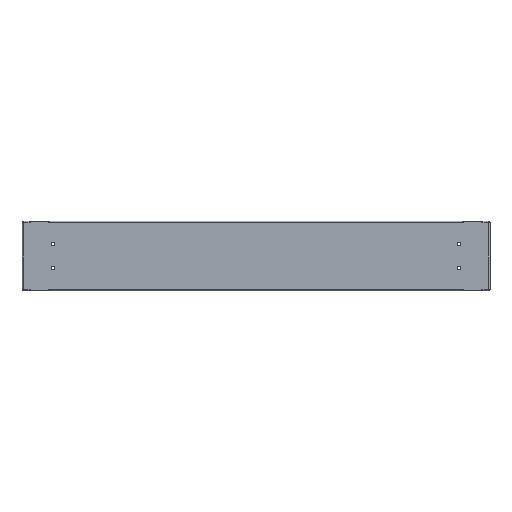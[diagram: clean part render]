
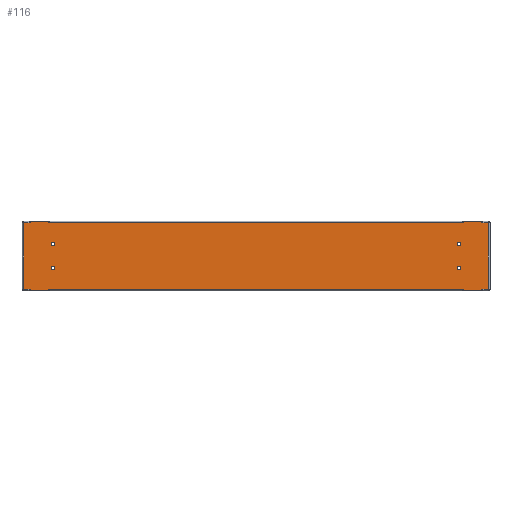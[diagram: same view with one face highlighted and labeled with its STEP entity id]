
A CAD part, top view. The second image highlights one B-rep face of the part: STEP entity #116.
In plain terms, the highlighted planar face has unit normal (0, 0, 1).
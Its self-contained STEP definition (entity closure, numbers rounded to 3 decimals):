
#116=ADVANCED_FACE('',(#582,#584,#586,#588,#590),#592,.F.);
#582=FACE_BOUND('',#583,.T.);
#583=EDGE_LOOP('',(#1966,#1967,#1968,#1969,#1970,#1971,#1972,#1973,#1974,#1975,#1976,
#1977,#1978,#1979,#1980,#1981,#1982,#1983,#1984,#1985,#1986,#1987,#1988,#1989,#1990,
#1991,#1992,#1993));
#584=FACE_BOUND('',#585,.T.);
#585=EDGE_LOOP('',(#1994));
#586=FACE_BOUND('',#587,.T.);
#587=EDGE_LOOP('',(#1995));
#588=FACE_BOUND('',#589,.T.);
#589=EDGE_LOOP('',(#1996));
#590=FACE_BOUND('',#591,.T.);
#591=EDGE_LOOP('',(#1997));
#592=PLANE('',#593);
#593=AXIS2_PLACEMENT_3D('',#594,#595,#596);
#594=CARTESIAN_POINT('',(0.,0.,0.));
#595=DIRECTION('',(0.,0.,-1.));
#596=DIRECTION('',(-1.,0.,0.));
#1966=ORIENTED_EDGE('',*,*,#2666,.T.);
#1967=ORIENTED_EDGE('',*,*,#2565,.T.);
#1968=ORIENTED_EDGE('',*,*,#2549,.T.);
#1969=ORIENTED_EDGE('',*,*,#2667,.F.);
#1970=ORIENTED_EDGE('',*,*,#2668,.F.);
#1971=ORIENTED_EDGE('',*,*,#2669,.F.);
#1972=ORIENTED_EDGE('',*,*,#2551,.T.);
#1973=ORIENTED_EDGE('',*,*,#2557,.T.);
#1974=ORIENTED_EDGE('',*,*,#2541,.T.);
#1975=ORIENTED_EDGE('',*,*,#2670,.F.);
#1976=ORIENTED_EDGE('',*,*,#2671,.F.);
#1977=ORIENTED_EDGE('',*,*,#2672,.F.);
#1978=ORIENTED_EDGE('',*,*,#2543,.T.);
#1979=ORIENTED_EDGE('',*,*,#2559,.T.);
#1980=ORIENTED_EDGE('',*,*,#2673,.T.);
#1981=ORIENTED_EDGE('',*,*,#2674,.T.);
#1982=ORIENTED_EDGE('',*,*,#2675,.F.);
#1983=ORIENTED_EDGE('',*,*,#2676,.T.);
#1984=ORIENTED_EDGE('',*,*,#2677,.T.);
#1985=ORIENTED_EDGE('',*,*,#2678,.T.);
#1986=ORIENTED_EDGE('',*,*,#2610,.F.);
#1987=ORIENTED_EDGE('',*,*,#2618,.T.);
#1988=ORIENTED_EDGE('',*,*,#2679,.F.);
#1989=ORIENTED_EDGE('',*,*,#2680,.T.);
#1990=ORIENTED_EDGE('',*,*,#2681,.T.);
#1991=ORIENTED_EDGE('',*,*,#2682,.T.);
#1992=ORIENTED_EDGE('',*,*,#2614,.F.);
#1993=ORIENTED_EDGE('',*,*,#2622,.T.);
#1994=ORIENTED_EDGE('',*,*,#2521,.T.);
#1995=ORIENTED_EDGE('',*,*,#2523,.T.);
#1996=ORIENTED_EDGE('',*,*,#2535,.F.);
#1997=ORIENTED_EDGE('',*,*,#2537,.F.);
#2521=EDGE_CURVE('',#2895,#2895,#2896,.T.);
#2523=EDGE_CURVE('',#2899,#2899,#2900,.T.);
#2535=EDGE_CURVE('',#2923,#2923,#2924,.T.);
#2537=EDGE_CURVE('',#2927,#2927,#2928,.T.);
#2541=EDGE_CURVE('',#2936,#2934,#2937,.T.);
#2543=EDGE_CURVE('',#2939,#2940,#2941,.T.);
#2549=EDGE_CURVE('',#2952,#2950,#2953,.T.);
#2551=EDGE_CURVE('',#2955,#2956,#2957,.T.);
#2557=EDGE_CURVE('',#2956,#2936,#2967,.T.);
#2559=EDGE_CURVE('',#2940,#2969,#2970,.T.);
#2565=EDGE_CURVE('',#2980,#2952,#2981,.T.);
#2610=EDGE_CURVE('',#3052,#3048,#3054,.T.);
#2614=EDGE_CURVE('',#3060,#3056,#3062,.T.);
#2618=EDGE_CURVE('',#3052,#3067,#3069,.T.);
#2622=EDGE_CURVE('',#3060,#3074,#3076,.T.);
#2666=EDGE_CURVE('',#3074,#2980,#3148,.T.);
#2667=EDGE_CURVE('',#3149,#2950,#3150,.T.);
#2668=EDGE_CURVE('',#3151,#3149,#3152,.T.);
#2669=EDGE_CURVE('',#2955,#3151,#3153,.T.);
#2670=EDGE_CURVE('',#3154,#2934,#3155,.T.);
#2671=EDGE_CURVE('',#3156,#3154,#3157,.T.);
#2672=EDGE_CURVE('',#2939,#3156,#3158,.T.);
#2673=EDGE_CURVE('',#2969,#3159,#3160,.T.);
#2674=EDGE_CURVE('',#3159,#3161,#3162,.T.);
#2675=EDGE_CURVE('',#3163,#3161,#3164,.T.);
#2676=EDGE_CURVE('',#3163,#3165,#3166,.T.);
#2677=EDGE_CURVE('',#3165,#3167,#3168,.T.);
#2678=EDGE_CURVE('',#3167,#3048,#3169,.T.);
#2679=EDGE_CURVE('',#3170,#3067,#3171,.T.);
#2680=EDGE_CURVE('',#3170,#3172,#3173,.T.);
#2681=EDGE_CURVE('',#3172,#3174,#3175,.T.);
#2682=EDGE_CURVE('',#3174,#3056,#3176,.T.);
#2895=VERTEX_POINT('',#3507);
#2896=CIRCLE('',#3508,3.65);
#2899=VERTEX_POINT('',#3517);
#2900=CIRCLE('',#3518,3.65);
#2923=VERTEX_POINT('',#3577);
#2924=CIRCLE('',#3578,3.65);
#2927=VERTEX_POINT('',#3587);
#2928=CIRCLE('',#3588,3.65);
#2934=VERTEX_POINT('',#3602);
#2936=VERTEX_POINT('',#3606);
#2937=LINE('',#3607,#3608);
#2939=VERTEX_POINT('',#3613);
#2940=VERTEX_POINT('',#3614);
#2941=LINE('',#3615,#3616);
#2950=VERTEX_POINT('',#3634);
#2952=VERTEX_POINT('',#3638);
#2953=LINE('',#3639,#3640);
#2955=VERTEX_POINT('',#3645);
#2956=VERTEX_POINT('',#3646);
#2957=LINE('',#3647,#3648);
#2967=LINE('',#3670,#3671);
#2969=VERTEX_POINT('',#3677);
#2970=LINE('',#3678,#3679);
#2980=VERTEX_POINT('',#3716);
#2981=LINE('',#3717,#3718);
#3048=VERTEX_POINT('',#3912);
#3052=VERTEX_POINT('',#3920);
#3054=LINE('',#3924,#3925);
#3056=VERTEX_POINT('',#3928);
#3060=VERTEX_POINT('',#3936);
#3062=LINE('',#3940,#3941);
#3067=VERTEX_POINT('',#3952);
#3069=LINE('',#3957,#3958);
#3074=VERTEX_POINT('',#3969);
#3076=LINE('',#3987,#3988);
#3148=LINE('',#4163,#4164);
#3149=VERTEX_POINT('',#4166);
#3150=LINE('',#4167,#4168);
#3151=VERTEX_POINT('',#4170);
#3152=LINE('',#4171,#4172);
#3153=LINE('',#4174,#4175);
#3154=VERTEX_POINT('',#4177);
#3155=LINE('',#4178,#4179);
#3156=VERTEX_POINT('',#4181);
#3157=LINE('',#4182,#4183);
#3158=LINE('',#4185,#4186);
#3159=VERTEX_POINT('',#4188);
#3160=LINE('',#4189,#4190);
#3161=VERTEX_POINT('',#4192);
#3162=LINE('',#4193,#4194);
#3163=VERTEX_POINT('',#4196);
#3164=LINE('',#4197,#4198);
#3165=VERTEX_POINT('',#4200);
#3166=LINE('',#4201,#4202);
#3167=VERTEX_POINT('',#4204);
#3168=LINE('',#4205,#4206);
#3169=LINE('',#4208,#4209);
#3170=VERTEX_POINT('',#4211);
#3171=LINE('',#4212,#4213);
#3172=VERTEX_POINT('',#4215);
#3173=LINE('',#4216,#4217);
#3174=VERTEX_POINT('',#4219);
#3175=LINE('',#4220,#4221);
#3176=LINE('',#4223,#4224);
#3507=CARTESIAN_POINT('',(-424.35,-25.,0.));
#3508=AXIS2_PLACEMENT_3D('',#3509,#3510,#3511);
#3509=CARTESIAN_POINT('',(-428.,-25.,0.));
#3510=DIRECTION('',(0.,0.,-1.));
#3511=DIRECTION('',(1.,0.,0.));
#3517=CARTESIAN_POINT('',(431.65,-25.,0.));
#3518=AXIS2_PLACEMENT_3D('',#3519,#3520,#3521);
#3519=CARTESIAN_POINT('',(428.,-25.,0.));
#3520=DIRECTION('',(0.,0.,-1.));
#3521=DIRECTION('',(1.,0.,0.));
#3577=CARTESIAN_POINT('',(-424.35,25.,0.));
#3578=AXIS2_PLACEMENT_3D('',#3579,#3580,#3581);
#3579=CARTESIAN_POINT('',(-428.,25.,0.));
#3580=DIRECTION('',(0.,0.,1.));
#3581=DIRECTION('',(-1.,0.,0.));
#3587=CARTESIAN_POINT('',(431.65,25.,0.));
#3588=AXIS2_PLACEMENT_3D('',#3589,#3590,#3591);
#3589=CARTESIAN_POINT('',(428.,25.,0.));
#3590=DIRECTION('',(0.,0.,1.));
#3591=DIRECTION('',(-1.,0.,0.));
#3602=CARTESIAN_POINT('',(438.2,-70.3,0.));
#3606=CARTESIAN_POINT('',(436.2,-70.3,0.));
#3607=CARTESIAN_POINT('',(436.2,-70.3,0.));
#3608=VECTOR('',#3609,1.);
#3609=DIRECTION('',(1.,0.,0.));
#3613=CARTESIAN_POINT('',(476.2,-70.3,0.));
#3614=CARTESIAN_POINT('',(478.2,-70.3,0.));
#3615=CARTESIAN_POINT('',(476.2,-70.3,0.));
#3616=VECTOR('',#3617,1.);
#3617=DIRECTION('',(1.,0.,0.));
#3634=CARTESIAN_POINT('',(-476.2,-70.3,0.));
#3638=CARTESIAN_POINT('',(-478.2,-70.3,0.));
#3639=CARTESIAN_POINT('',(-478.2,-70.3,0.));
#3640=VECTOR('',#3641,1.);
#3641=DIRECTION('',(1.,0.,0.));
#3645=CARTESIAN_POINT('',(-438.2,-70.3,0.));
#3646=CARTESIAN_POINT('',(-436.2,-70.3,0.));
#3647=CARTESIAN_POINT('',(-438.2,-70.3,0.));
#3648=VECTOR('',#3649,1.);
#3649=DIRECTION('',(1.,0.,0.));
#3670=CARTESIAN_POINT('',(-436.2,-70.3,0.));
#3671=VECTOR('',#3672,1.);
#3672=DIRECTION('',(1.,0.,0.));
#3677=CARTESIAN_POINT('',(490.,-70.3,0.));
#3678=CARTESIAN_POINT('',(478.2,-70.3,0.));
#3679=VECTOR('',#3680,1.);
#3680=DIRECTION('',(1.,0.,0.));
#3716=CARTESIAN_POINT('',(-490.,-70.3,0.));
#3717=CARTESIAN_POINT('',(-490.,-70.3,0.));
#3718=VECTOR('',#3719,1.);
#3719=DIRECTION('',(1.,0.,0.));
#3912=CARTESIAN_POINT('',(438.2,70.3,0.));
#3920=CARTESIAN_POINT('',(436.2,70.3,0.));
#3924=CARTESIAN_POINT('',(436.2,70.3,0.));
#3925=VECTOR('',#3926,1.);
#3926=DIRECTION('',(1.,0.,0.));
#3928=CARTESIAN_POINT('',(-476.2,70.3,0.));
#3936=CARTESIAN_POINT('',(-478.2,70.3,0.));
#3940=CARTESIAN_POINT('',(-478.2,70.3,0.));
#3941=VECTOR('',#3942,1.);
#3942=DIRECTION('',(1.,0.,0.));
#3952=CARTESIAN_POINT('',(-436.2,70.3,0.));
#3957=CARTESIAN_POINT('',(436.2,70.3,0.));
#3958=VECTOR('',#3959,1.);
#3959=DIRECTION('',(-1.,0.,0.));
#3969=CARTESIAN_POINT('',(-490.,70.3,0.));
#3987=CARTESIAN_POINT('',(-478.2,70.3,0.));
#3988=VECTOR('',#3989,1.);
#3989=DIRECTION('',(-1.,0.,0.));
#4163=CARTESIAN_POINT('',(-490.,70.3,0.));
#4164=VECTOR('',#4165,1.);
#4165=DIRECTION('',(0.,-1.,0.));
#4166=CARTESIAN_POINT('',(-476.2,-73.5,0.));
#4167=CARTESIAN_POINT('',(-476.2,-73.5,0.));
#4168=VECTOR('',#4169,1.);
#4169=DIRECTION('',(0.,1.,0.));
#4170=CARTESIAN_POINT('',(-438.2,-73.5,0.));
#4171=CARTESIAN_POINT('',(-438.2,-73.5,0.));
#4172=VECTOR('',#4173,1.);
#4173=DIRECTION('',(-1.,0.,0.));
#4174=CARTESIAN_POINT('',(-438.2,-70.3,0.));
#4175=VECTOR('',#4176,1.);
#4176=DIRECTION('',(0.,-1.,0.));
#4177=CARTESIAN_POINT('',(438.2,-73.5,0.));
#4178=CARTESIAN_POINT('',(438.2,-73.5,0.));
#4179=VECTOR('',#4180,1.);
#4180=DIRECTION('',(0.,1.,0.));
#4181=CARTESIAN_POINT('',(476.2,-73.5,0.));
#4182=CARTESIAN_POINT('',(476.2,-73.5,0.));
#4183=VECTOR('',#4184,1.);
#4184=DIRECTION('',(-1.,0.,0.));
#4185=CARTESIAN_POINT('',(476.2,-70.3,0.));
#4186=VECTOR('',#4187,1.);
#4187=DIRECTION('',(0.,-1.,0.));
#4188=CARTESIAN_POINT('',(490.,70.3,0.));
#4189=CARTESIAN_POINT('',(490.,-70.3,0.));
#4190=VECTOR('',#4191,1.);
#4191=DIRECTION('',(0.,1.,0.));
#4192=CARTESIAN_POINT('',(478.2,70.3,0.));
#4193=CARTESIAN_POINT('',(490.,70.3,0.));
#4194=VECTOR('',#4195,1.);
#4195=DIRECTION('',(-1.,0.,0.));
#4196=CARTESIAN_POINT('',(476.2,70.3,0.));
#4197=CARTESIAN_POINT('',(476.2,70.3,0.));
#4198=VECTOR('',#4199,1.);
#4199=DIRECTION('',(1.,0.,0.));
#4200=CARTESIAN_POINT('',(476.2,73.5,0.));
#4201=CARTESIAN_POINT('',(476.2,70.3,0.));
#4202=VECTOR('',#4203,1.);
#4203=DIRECTION('',(0.,1.,0.));
#4204=CARTESIAN_POINT('',(438.2,73.5,0.));
#4205=CARTESIAN_POINT('',(476.2,73.5,0.));
#4206=VECTOR('',#4207,1.);
#4207=DIRECTION('',(-1.,0.,0.));
#4208=CARTESIAN_POINT('',(438.2,73.5,0.));
#4209=VECTOR('',#4210,1.);
#4210=DIRECTION('',(0.,-1.,0.));
#4211=CARTESIAN_POINT('',(-438.2,70.3,0.));
#4212=CARTESIAN_POINT('',(-438.2,70.3,0.));
#4213=VECTOR('',#4214,1.);
#4214=DIRECTION('',(1.,0.,0.));
#4215=CARTESIAN_POINT('',(-438.2,73.5,0.));
#4216=CARTESIAN_POINT('',(-438.2,70.3,0.));
#4217=VECTOR('',#4218,1.);
#4218=DIRECTION('',(0.,1.,0.));
#4219=CARTESIAN_POINT('',(-476.2,73.5,0.));
#4220=CARTESIAN_POINT('',(-438.2,73.5,0.));
#4221=VECTOR('',#4222,1.);
#4222=DIRECTION('',(-1.,0.,0.));
#4223=CARTESIAN_POINT('',(-476.2,73.5,0.));
#4224=VECTOR('',#4225,1.);
#4225=DIRECTION('',(0.,-1.,0.));
